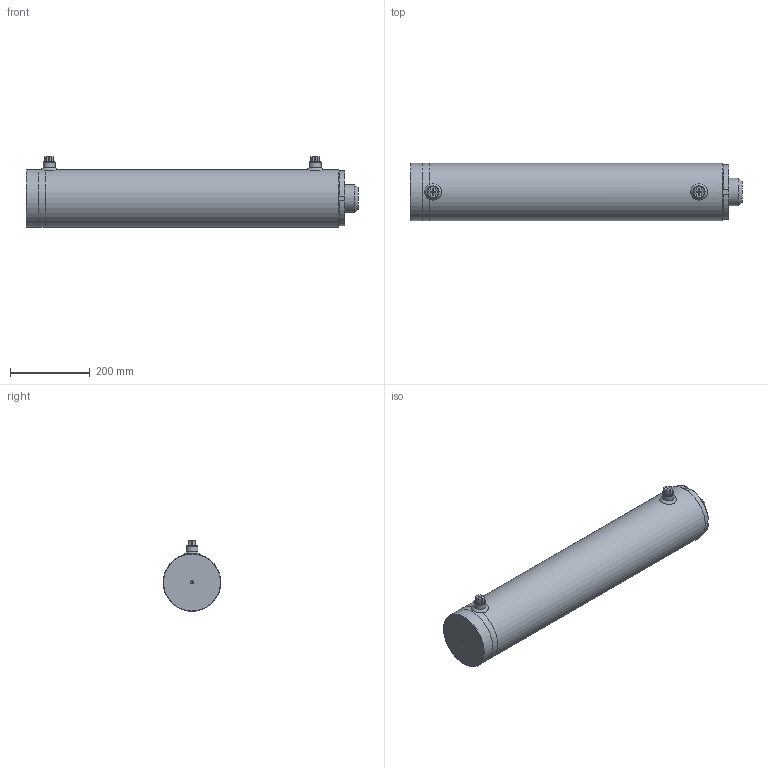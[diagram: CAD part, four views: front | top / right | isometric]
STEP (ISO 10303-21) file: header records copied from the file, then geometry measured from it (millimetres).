
FILE_DESCRIPTION( ( 'Unknown' ), '1' );
FILE_NAME( 'E:/LIBRERIA_3d/CILINDRI/HM0PM/HM0PM1200700600.stp', 'Unknown', ( 'Unknown' ), ( 'Unknown' ), 'PSStep 17.0.49', 'Unknown', ' ' );
FILE_SCHEMA( ( 'AUTOMOTIVE_DESIGN { 1 0 10303 214 1 1 1 1 }' ) );
Length unit declared in the file: millimetre
Products named in the file (18): ctpm120054070; AVG3008140; CTPM120054070; STSP1201450600-oa6; Saldatura d'angolo 1-oa4; MAT_PRIMA_TUBO_FTL1451200-oa5; CBSC220800; CGPM140120070-oa1; CGPM140120070-oa0; Assem1; Saldatura con preparazione 1-oa2; Saldatura d'angolo 1-oa3; CFPM145120042; APSEP43527; SBLP0701200600
Assembly tree (15 placements, depth 3):
  Saldatura d'angolo 1-oa4
  Saldatura d'angolo 1-oa4
  Assem1
    CBSC220800
    Saldatura con preparazione 1-oa2
    Saldatura con preparazione 1-oa2
    CFPM145120042
    APSEP43527  x2
    SBLP0701200600
    CGPM140120070-oa1
      CGPM140120070-oa0
    ctpm120054070
      AVG3008140
      CTPM120054070
    STSP1201450600-oa6
      MAT_PRIMA_TUBO_FTL1451200-oa5
      CBSC220800
  Saldatura d'angolo 1-oa3
  Saldatura d'angolo 1-oa3
Bounding box: 835 x 145 x 177.5 mm (x, y, z)
Volume: 8674615.8 mm3; surface area: 1064993.7 mm2
Topology: 16 solids, 16 shells, 294 faces, 633 edges, 400 vertices
Faces by surface type: plane 111, cylinder 79, torus 59, cone 41, bspline 4
Full cylindrical faces by diameter (mm): 6.25 x2, 6.647 x1, 7.5 x2, 8 x1, 12 x2, 18.631 x2, 20.955 x2, 27.2 x2, 30 x6, 49 x2, 49.835 x1, 52 x2, 54 x3, 60.2 x1, 70 x1, 70.8 x5, 75 x2, 80 x2, 85.1 x1, 90 x1, 105 x1, 110 x1, 112.5 x1, 115 x2, 119 x4, 119.9 x1, 120 x1, 120.7 x1, 120.9 x1, 121 x2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
Entity records: 10263 total; most frequent: CARTESIAN_POINT 3752, DIRECTION 1082, ORIENTED_EDGE 726, AXIS2_PLACEMENT_3D 484, EDGE_LOOP 462, FACE_OUTER_BOUND 377, EDGE_CURVE 363, VERTEX_POINT 309
